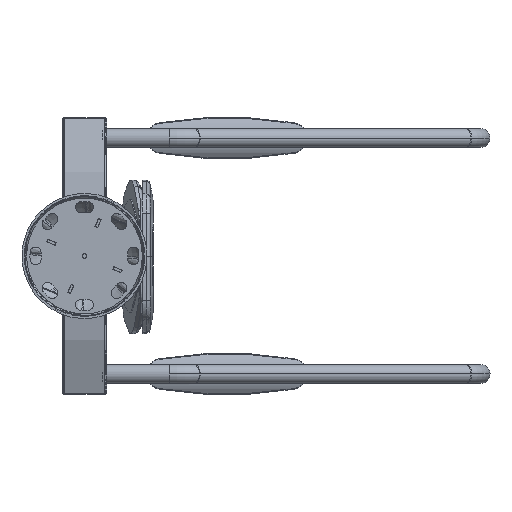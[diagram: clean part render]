
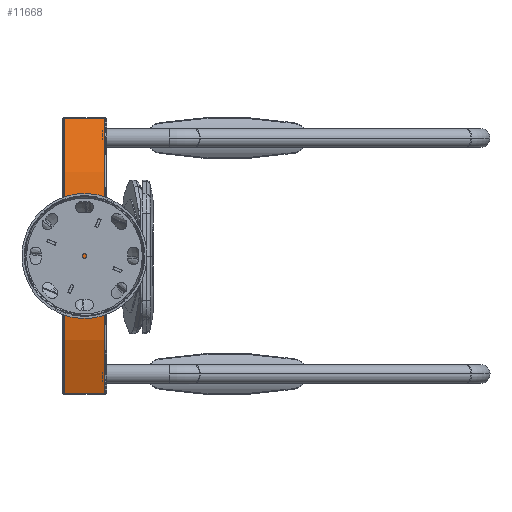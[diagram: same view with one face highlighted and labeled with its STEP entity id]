
A CAD part, front view. The second image highlights one B-rep face of the part: STEP entity #11668.
In plain terms, the highlighted cylindrical face has radius 775 mm (diameter 1550 mm), a partial arc.
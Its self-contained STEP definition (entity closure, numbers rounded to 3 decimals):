
#5098 = CARTESIAN_POINT ( 'NONE',  ( -309.031, 710.722, -50. ) ) ;
#5132 = AXIS2_PLACEMENT_3D ( 'NONE', #28291, #100346, #38393 ) ;
#6479 = VECTOR ( 'NONE', #99836, 1000. ) ;
#6916 = DIRECTION ( 'NONE',  ( 0., 0., 1. ) ) ;
#8045 = EDGE_CURVE ( 'NONE', #11627, #19857, #18673, .T. ) ;
#11627 = VERTEX_POINT ( 'NONE', #81691 ) ;
#11668 = ADVANCED_FACE ( 'NONE', ( #71112 ), #15280, .T. ) ;
#14409 = ORIENTED_EDGE ( 'NONE', *, *, #88863, .F. ) ;
#14874 = DIRECTION ( 'NONE',  ( -1., 0., 0. ) ) ;
#15280 = CYLINDRICAL_SURFACE ( 'NONE', #63118, 775. ) ;
#17096 = VECTOR ( 'NONE', #6916, 1000. ) ;
#18171 = VERTEX_POINT ( 'NONE', #54513 ) ;
#18673 = LINE ( 'NONE', #5098, #17096 ) ;
#19857 = VERTEX_POINT ( 'NONE', #103001 ) ;
#24927 = CARTESIAN_POINT ( 'NONE',  ( 309.031, 710.722, -45. ) ) ;
#28291 = CARTESIAN_POINT ( 'NONE',  ( 0., 0., -45. ) ) ;
#34007 = ORIENTED_EDGE ( 'NONE', *, *, #8045, .T. ) ;
#38393 = DIRECTION ( 'NONE',  ( -1., 0., 0. ) ) ;
#45160 = DIRECTION ( 'NONE',  ( 0., 0., -1. ) ) ;
#50017 = DIRECTION ( 'NONE',  ( -1., 0., 0. ) ) ;
#54513 = CARTESIAN_POINT ( 'NONE',  ( 309.031, 710.722, 45. ) ) ;
#60921 = ORIENTED_EDGE ( 'NONE', *, *, #95509, .T. ) ;
#63118 = AXIS2_PLACEMENT_3D ( 'NONE', #112891, #82598, #50017 ) ;
#63982 = CARTESIAN_POINT ( 'NONE',  ( 0., 0., 45. ) ) ;
#71112 = FACE_OUTER_BOUND ( 'NONE', #79761, .T. ) ;
#79761 = EDGE_LOOP ( 'NONE', ( #60921, #86617, #14409, #34007 ) ) ;
#81691 = CARTESIAN_POINT ( 'NONE',  ( -309.031, 710.722, -45. ) ) ;
#82488 = AXIS2_PLACEMENT_3D ( 'NONE', #63982, #45160, #14874 ) ;
#82598 = DIRECTION ( 'NONE',  ( 0., 0., -1. ) ) ;
#86617 = ORIENTED_EDGE ( 'NONE', *, *, #96517, .F. ) ;
#88863 = EDGE_CURVE ( 'NONE', #11627, #134823, #101260, .T. ) ;
#95509 = EDGE_CURVE ( 'NONE', #19857, #18171, #127344, .T. ) ;
#96517 = EDGE_CURVE ( 'NONE', #134823, #18171, #128166, .T. ) ;
#99836 = DIRECTION ( 'NONE',  ( 0., 0., 1. ) ) ;
#100346 = DIRECTION ( 'NONE',  ( 0., 0., -1. ) ) ;
#101260 = CIRCLE ( 'NONE', #5132, 775. ) ;
#103001 = CARTESIAN_POINT ( 'NONE',  ( -309.031, 710.722, 45. ) ) ;
#112891 = CARTESIAN_POINT ( 'NONE',  ( 0., 0., -216.752 ) ) ;
#120058 = CARTESIAN_POINT ( 'NONE',  ( 309.031, 710.722, -50. ) ) ;
#127344 = CIRCLE ( 'NONE', #82488, 775. ) ;
#128166 = LINE ( 'NONE', #120058, #6479 ) ;
#134823 = VERTEX_POINT ( 'NONE', #24927 ) ;
